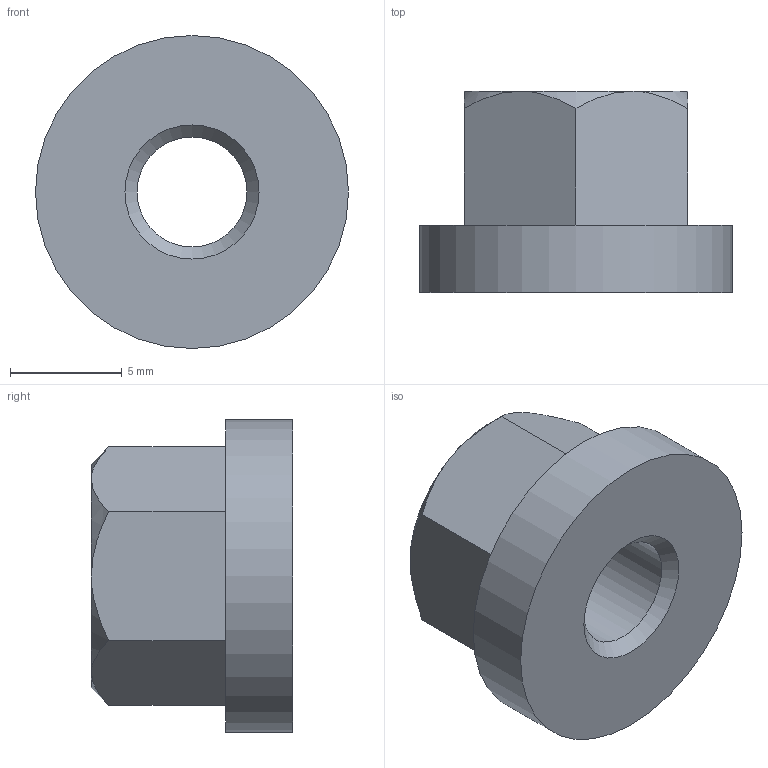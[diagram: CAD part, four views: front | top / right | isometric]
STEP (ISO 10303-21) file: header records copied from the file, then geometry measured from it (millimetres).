
FILE_DESCRIPTION( ( 'STEP AP203' ), '1' );
FILE_NAME( 'C:/Temp/Ganter_Step_05_03_2020/data/3_2/din6331/Hexagon nut DIN 6331-M6.stp', '2020-03-13T05:16:15', ( 'License CC BY-ND 4.0' ), ( 'CADENAS' ), ' ', 'PARTsolutions', ' ' );
FILE_SCHEMA( ( 'CONFIG_CONTROL_DESIGN' ) );
Length unit declared in the file: millimetre
Products named in the file (1): _Hexagon nut DIN 6331-M6
Bounding box: 14 x 9 x 14 mm (x, y, z)
Volume: 803.8 mm3; surface area: 733.8 mm2
Topology: 1 solids, 1 shells, 19 faces, 41 edges, 25 vertices
Faces by surface type: plane 9, cone 8, cylinder 2
Full cylindrical faces by diameter (mm): 4.917 x1, 14 x1
Entity records: 582 total; most frequent: CARTESIAN_POINT 156, DIRECTION 76, ORIENTED_EDGE 72, EDGE_CURVE 36, AXIS2_PLACEMENT_3D 32, EDGE_LOOP 26, VERTEX_POINT 24, FACE_OUTER_BOUND 21
